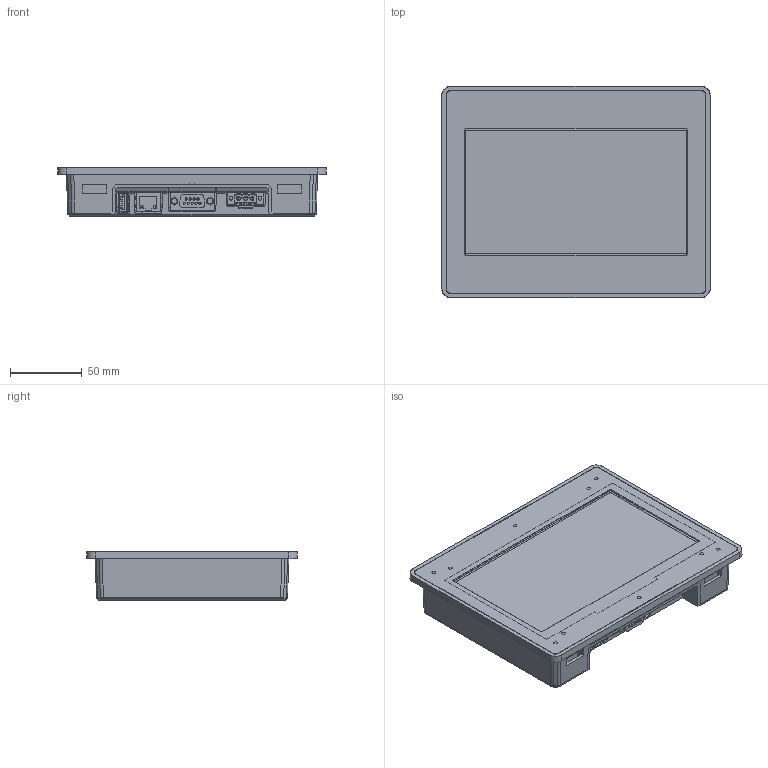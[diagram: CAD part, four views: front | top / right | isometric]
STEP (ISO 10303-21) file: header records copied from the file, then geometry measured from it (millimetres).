
FILE_DESCRIPTION (( 'STEP AP203' ), '1' );
FILE_NAME ('HMe07.STEP', '2015-02-27T15:20:11', ( '' ), ( '' ), 'SwSTEP 2.0', 'SolidWorks 2015', '' );
FILE_SCHEMA (( 'CONFIG_CONTROL_DESIGN' ));
Products named in the file (1): HMe07
Bounding box: 187 x 147 x 33.96 mm (x, y, z)
Volume: 306468.8 mm3; surface area: 270758.3 mm2
Topology: 10 solids, 10 shells, 2588 faces, 6899 edges, 4475 vertices
Faces by surface type: plane 1735, bspline 335, cylinder 262, cone 256
Entity records: 86953 total; most frequent: CARTESIAN_POINT 24228, ORIENTED_EDGE 13798, DIRECTION 11384, EDGE_CURVE 6899, LINE 5134, VECTOR 5134, VERTEX_POINT 4479, AXIS2_PLACEMENT_3D 3125
